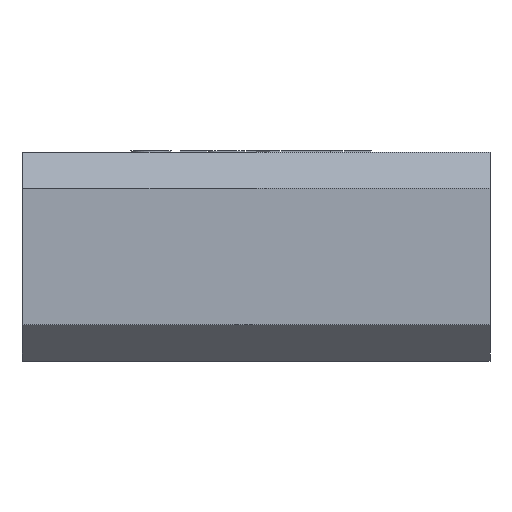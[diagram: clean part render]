
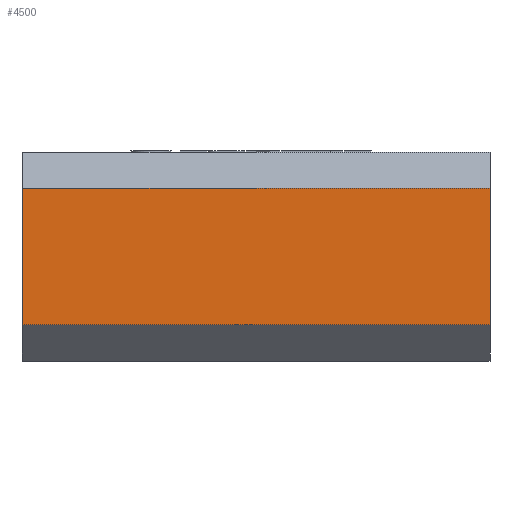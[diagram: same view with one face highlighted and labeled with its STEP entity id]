
A CAD part, front view. The second image highlights one B-rep face of the part: STEP entity #4500.
In plain terms, the highlighted planar face has unit normal (0, -1, 0).
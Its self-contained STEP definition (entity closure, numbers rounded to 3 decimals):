
#364 = VECTOR ( 'NONE', #7076, 1000. ) ;
#1196 = ORIENTED_EDGE ( 'NONE', *, *, #4553, .T. ) ;
#1415 = FACE_OUTER_BOUND ( 'NONE', #7964, .T. ) ;
#1522 = LINE ( 'NONE', #5149, #6267 ) ;
#1540 = CARTESIAN_POINT ( 'NONE',  ( 53., -23., 15. ) ) ;
#1671 = DIRECTION ( 'NONE',  ( 1., 0., 0. ) ) ;
#1777 = LINE ( 'NONE', #2300, #1962 ) ;
#1962 = VECTOR ( 'NONE', #1671, 1000. ) ;
#2300 = CARTESIAN_POINT ( 'NONE',  ( 53., -23., -15. ) ) ;
#2486 = VERTEX_POINT ( 'NONE', #5608 ) ;
#2588 = LINE ( 'NONE', #6458, #3553 ) ;
#2688 = DIRECTION ( 'NONE',  ( 0., 0., -1. ) ) ;
#2779 = ORIENTED_EDGE ( 'NONE', *, *, #2996, .T. ) ;
#2850 = CARTESIAN_POINT ( 'NONE',  ( 53., -23., -15. ) ) ;
#2898 = VERTEX_POINT ( 'NONE', #1540 ) ;
#2996 = EDGE_CURVE ( 'NONE', #5295, #4154, #1777, .T. ) ;
#3553 = VECTOR ( 'NONE', #5233, 1000. ) ;
#3589 = EDGE_CURVE ( 'NONE', #2898, #4154, #5017, .T. ) ;
#3921 = DIRECTION ( 'NONE',  ( 0., 0., 1. ) ) ;
#4154 = VERTEX_POINT ( 'NONE', #2850 ) ;
#4459 = CARTESIAN_POINT ( 'NONE',  ( -50., -23., -15. ) ) ;
#4460 = CARTESIAN_POINT ( 'NONE',  ( 53., -23., 23. ) ) ;
#4462 = EDGE_CURVE ( 'NONE', #2486, #5295, #1522, .T. ) ;
#4500 = ADVANCED_FACE ( 'NONE', ( #1415 ), #6407, .F. ) ;
#4553 = EDGE_CURVE ( 'NONE', #2898, #2486, #2588, .T. ) ;
#4573 = DIRECTION ( 'NONE',  ( 0., 1., 0. ) ) ;
#4663 = ORIENTED_EDGE ( 'NONE', *, *, #4462, .T. ) ;
#5017 = LINE ( 'NONE', #4460, #364 ) ;
#5149 = CARTESIAN_POINT ( 'NONE',  ( -50., -23., 23. ) ) ;
#5233 = DIRECTION ( 'NONE',  ( -1., 0., 0. ) ) ;
#5295 = VERTEX_POINT ( 'NONE', #4459 ) ;
#5477 = ORIENTED_EDGE ( 'NONE', *, *, #3589, .F. ) ;
#5608 = CARTESIAN_POINT ( 'NONE',  ( -50., -23., 15. ) ) ;
#6194 = AXIS2_PLACEMENT_3D ( 'NONE', #6992, #4573, #3921 ) ;
#6267 = VECTOR ( 'NONE', #2688, 1000. ) ;
#6407 = PLANE ( 'NONE',  #6194 ) ;
#6458 = CARTESIAN_POINT ( 'NONE',  ( -50., -23., 15. ) ) ;
#6992 = CARTESIAN_POINT ( 'NONE',  ( -50., -23., 23. ) ) ;
#7076 = DIRECTION ( 'NONE',  ( 0., 0., -1. ) ) ;
#7964 = EDGE_LOOP ( 'NONE', ( #5477, #1196, #4663, #2779 ) ) ;
